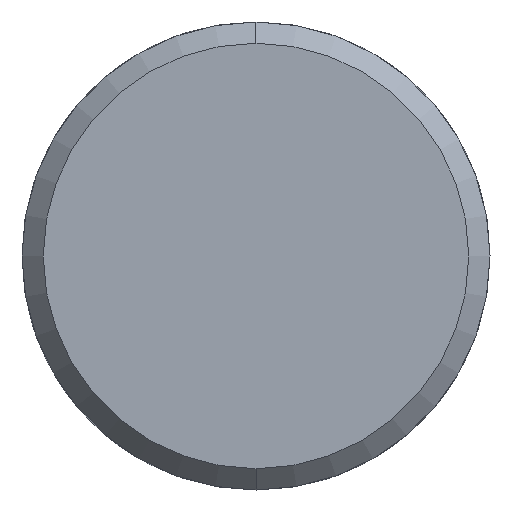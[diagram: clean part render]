
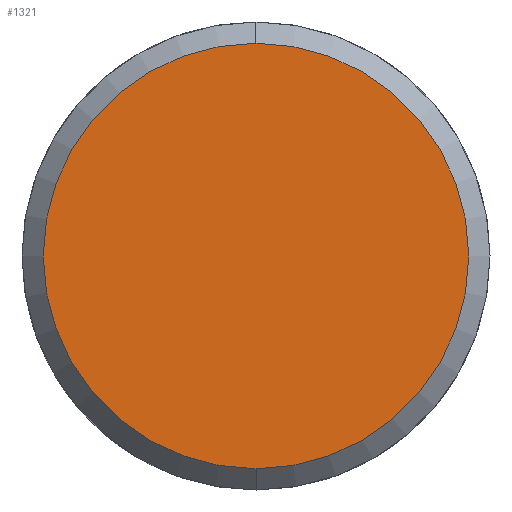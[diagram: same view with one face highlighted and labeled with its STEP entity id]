
A CAD part, left-side view. The second image highlights one B-rep face of the part: STEP entity #1321.
In plain terms, the highlighted planar face has unit normal (-1, 0, 0).
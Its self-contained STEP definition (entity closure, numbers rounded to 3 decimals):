
#1253=CARTESIAN_POINT('Vertex',(-5.,0.,-10.)) ;
#1256=CARTESIAN_POINT('Axis2P3D Location',(-5.,0.,0.)) ;
#1260=CARTESIAN_POINT('Vertex',(-5.,10.,0.)) ;
#1263=CARTESIAN_POINT('Axis2P3D Location',(-5.,0.,0.)) ;
#1267=CARTESIAN_POINT('Vertex',(-5.,0.,10.)) ;
#1289=CARTESIAN_POINT('Axis2P3D Location',(-5.,0.,0.)) ;
#1293=CARTESIAN_POINT('Vertex',(-5.,-10.,0.)) ;
#1296=CARTESIAN_POINT('Axis2P3D Location',(-5.,0.,0.)) ;
#1310=CARTESIAN_POINT('Axis2P3D Location',(-5.,0.,0.)) ;
#1257=DIRECTION('Axis2P3D Direction',(1.,0.,-0.)) ;
#1264=DIRECTION('Axis2P3D Direction',(1.,0.,-0.)) ;
#1290=DIRECTION('Axis2P3D Direction',(1.,0.,-0.)) ;
#1297=DIRECTION('Axis2P3D Direction',(1.,0.,-0.)) ;
#1311=DIRECTION('Axis2P3D Direction',(1.,0.,-0.)) ;
#1312=DIRECTION('Axis2P3D XDirection',(-0.,0.,-1.)) ;
#1258=AXIS2_PLACEMENT_3D('Circle Axis2P3D',#1256,#1257,$) ;
#1265=AXIS2_PLACEMENT_3D('Circle Axis2P3D',#1263,#1264,$) ;
#1291=AXIS2_PLACEMENT_3D('Circle Axis2P3D',#1289,#1290,$) ;
#1298=AXIS2_PLACEMENT_3D('Circle Axis2P3D',#1296,#1297,$) ;
#1313=AXIS2_PLACEMENT_3D('Plane Axis2P3D',#1310,#1311,#1312) ;
#1316=ORIENTED_EDGE('',*,*,#1262,.F.) ;
#1317=ORIENTED_EDGE('',*,*,#1300,.F.) ;
#1318=ORIENTED_EDGE('',*,*,#1295,.F.) ;
#1319=ORIENTED_EDGE('',*,*,#1269,.F.) ;
#1321=ADVANCED_FACE('351-12X36X100',(#1320),#1314,.F.) ;
#1259=CIRCLE('generated circle',#1258,10.) ;
#1266=CIRCLE('generated circle',#1265,10.) ;
#1292=CIRCLE('generated circle',#1291,10.) ;
#1299=CIRCLE('generated circle',#1298,10.) ;
#1262=EDGE_CURVE('',#1254,#1261,#1259,.T.) ;
#1269=EDGE_CURVE('',#1261,#1268,#1266,.T.) ;
#1295=EDGE_CURVE('',#1268,#1294,#1292,.T.) ;
#1300=EDGE_CURVE('',#1294,#1254,#1299,.T.) ;
#1315=EDGE_LOOP('',(#1316,#1317,#1318,#1319)) ;
#1320=FACE_OUTER_BOUND('',#1315,.T.) ;
#1314=PLANE('Plane',#1313) ;
#1254=VERTEX_POINT('',#1253) ;
#1261=VERTEX_POINT('',#1260) ;
#1268=VERTEX_POINT('',#1267) ;
#1294=VERTEX_POINT('',#1293) ;
